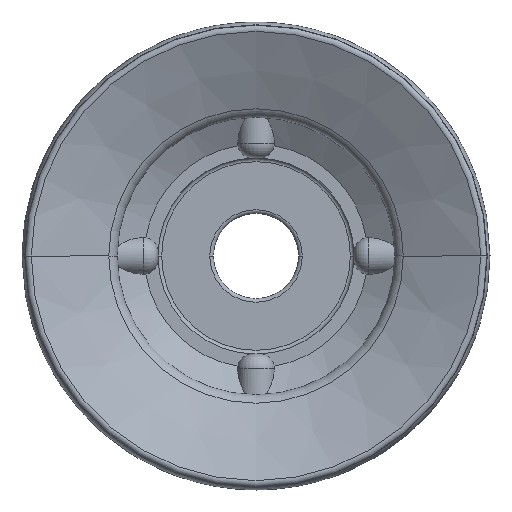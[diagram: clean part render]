
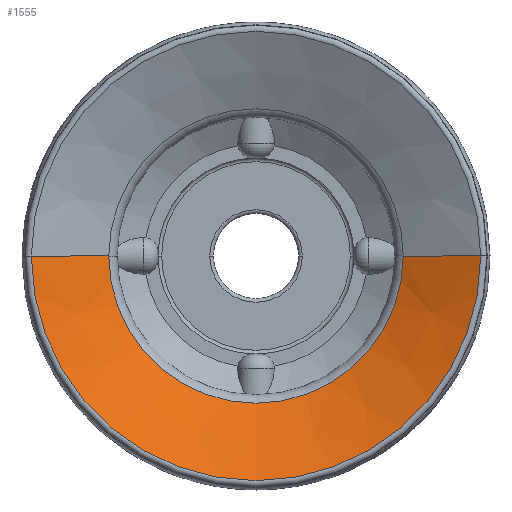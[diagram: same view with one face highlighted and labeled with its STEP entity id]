
A CAD part, front view. The second image highlights one B-rep face of the part: STEP entity #1555.
In plain terms, the highlighted conical face has half-angle 64.565 degrees and reference radius 7.956 mm.
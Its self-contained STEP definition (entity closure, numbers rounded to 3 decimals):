
#66 = ORIENTED_EDGE ( 'NONE', *, *, #2135, .T. ) ;
#141 = AXIS2_PLACEMENT_3D ( 'NONE', #571, #995, #1690 ) ;
#248 = VERTEX_POINT ( 'NONE', #680 ) ;
#347 = ORIENTED_EDGE ( 'NONE', *, *, #689, .F. ) ;
#348 = CARTESIAN_POINT ( 'NONE',  ( -12.143, -15.476, 0. ) ) ;
#410 = CARTESIAN_POINT ( 'NONE',  ( 0., -15.476, 0. ) ) ;
#559 = VECTOR ( 'NONE', #1997, 1000. ) ;
#571 = CARTESIAN_POINT ( 'NONE',  ( 0., -13.485, 0. ) ) ;
#608 = DIRECTION ( 'NONE',  ( -1., 0., 0. ) ) ;
#680 = CARTESIAN_POINT ( 'NONE',  ( -7.956, -13.485, 0. ) ) ;
#689 = EDGE_CURVE ( 'NONE', #746, #2039, #2716, .T. ) ;
#746 = VERTEX_POINT ( 'NONE', #2684 ) ;
#995 = DIRECTION ( 'NONE',  ( 0., 1., 0. ) ) ;
#1002 = CIRCLE ( 'NONE', #141, 7.956 ) ;
#1095 = DIRECTION ( 'NONE',  ( 1., 0., 0. ) ) ;
#1107 = EDGE_CURVE ( 'NONE', #2524, #746, #1380, .T. ) ;
#1141 = AXIS2_PLACEMENT_3D ( 'NONE', #2731, #1542, #1095 ) ;
#1380 = LINE ( 'NONE', #2565, #2162 ) ;
#1455 = CARTESIAN_POINT ( 'NONE',  ( 7.956, -13.485, 0. ) ) ;
#1542 = DIRECTION ( 'NONE',  ( 0., -1., 0. ) ) ;
#1555 = ADVANCED_FACE ( 'NONE', ( #1796 ), #1686, .F. ) ;
#1686 = CONICAL_SURFACE ( 'NONE', #1141, 7.956, 1.127 ) ;
#1690 = DIRECTION ( 'NONE',  ( -1., 0., 0. ) ) ;
#1752 = LINE ( 'NONE', #2482, #559 ) ;
#1796 = FACE_OUTER_BOUND ( 'NONE', #2101, .T. ) ;
#1850 = DIRECTION ( 'NONE',  ( 0.903, -0.429, 0. ) ) ;
#1908 = ORIENTED_EDGE ( 'NONE', *, *, #2620, .T. ) ;
#1997 = DIRECTION ( 'NONE',  ( -0.903, -0.429, 0. ) ) ;
#2039 = VERTEX_POINT ( 'NONE', #348 ) ;
#2101 = EDGE_LOOP ( 'NONE', ( #1908, #66, #347, #2466 ) ) ;
#2135 = EDGE_CURVE ( 'NONE', #248, #2039, #1752, .T. ) ;
#2162 = VECTOR ( 'NONE', #1850, 1000. ) ;
#2230 = AXIS2_PLACEMENT_3D ( 'NONE', #410, #2883, #608 ) ;
#2466 = ORIENTED_EDGE ( 'NONE', *, *, #1107, .F. ) ;
#2482 = CARTESIAN_POINT ( 'NONE',  ( -7.956, -13.485, 0. ) ) ;
#2524 = VERTEX_POINT ( 'NONE', #1455 ) ;
#2565 = CARTESIAN_POINT ( 'NONE',  ( 7.956, -13.485, 0. ) ) ;
#2620 = EDGE_CURVE ( 'NONE', #2524, #248, #1002, .T. ) ;
#2684 = CARTESIAN_POINT ( 'NONE',  ( 12.143, -15.476, 0. ) ) ;
#2716 = CIRCLE ( 'NONE', #2230, 12.143 ) ;
#2731 = CARTESIAN_POINT ( 'NONE',  ( 0., -13.485, 0. ) ) ;
#2883 = DIRECTION ( 'NONE',  ( 0., 1., 0. ) ) ;
